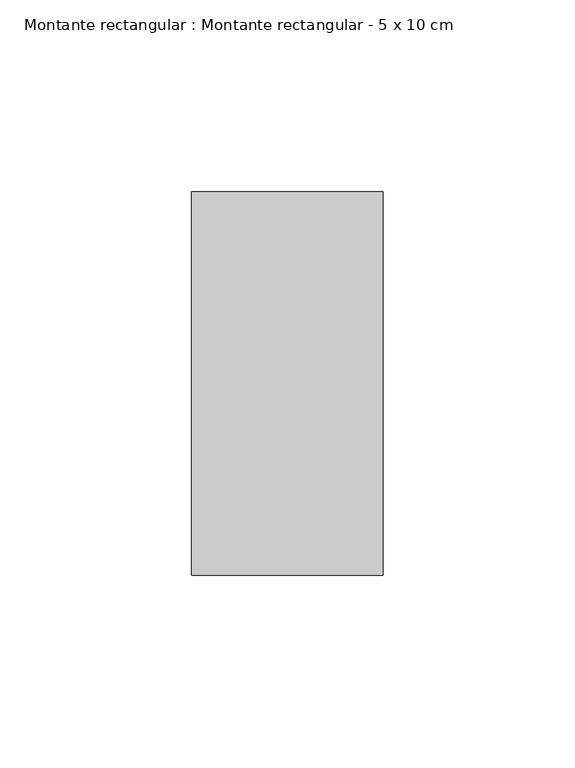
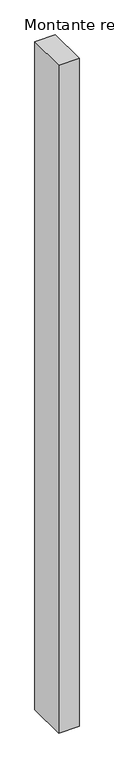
"""IFC4 building model written with IfcOpenShell, lengths in millimetres: member geometry, Montante rectangular : Montante rectangular - 5 x 10 cm."""

import ifcopenshell
import ifcopenshell.guid

model = None  # the IFC model being written
_history = None  # IfcOwnerHistory: only IFC2X3 demands one
_inside = {}  # id of a spatial element -> (the spatial element, [elements in it])
_under = {}  # id of a project, library or spatial element -> (it, [spatial elements below it])
_declared = {}  # id of a project -> (the project, [libraries it declares])
_typed = {}  # id of a type object -> (the type object, [elements of that type])
_made_of = {}  # id of a material, layer set ... -> (it, [elements and type objects made of it])


def new_model(schema):
    """Start an empty IFC model of exactly this schema.

    Asked for "IFC4X3", IfcOpenShell would pick the latest addendum, in which some entities
    have other attributes; the version numbers below select the first issue.
    IFC2X3 requires an IfcOwnerHistory on every rooted entity: one is made here for all.
    """
    global model, _history
    if schema == "IFC4X3":
        model = ifcopenshell.file(schema_version=(4, 3, 0, 0))
    else:
        model = ifcopenshell.file(schema=schema)
    _inside.clear()
    _under.clear()
    _declared.clear()
    _typed.clear()
    _made_of.clear()
    _history = None
    if model.schema == "IFC2X3":
        org = make("IfcOrganization", Name="unknown")
        user = make(
            "IfcPersonAndOrganization",
            ThePerson=make("IfcPerson", FamilyName="unknown"),
            TheOrganization=org,
        )
        app = make(
            "IfcApplication",
            ApplicationDeveloper=org,
            Version="unknown",
            ApplicationFullName="unknown",
            ApplicationIdentifier="unknown",
        )
        _history = make(
            "IfcOwnerHistory",
            OwningUser=user,
            OwningApplication=app,
            ChangeAction="ADDED",
            CreationDate=0,
        )
    return model


def make(cls, **values):
    """One entity of the class cls with the attributes given. An attribute that is None is left unset."""
    return model.create_entity(
        cls, **{name: value for name, value in values.items() if value is not None}
    )


def rooted(cls, **values):
    """An entity with a GlobalId (a new one), such as an element, a storey or a relation."""
    return make(cls, GlobalId=ifcopenshell.guid.new(), OwnerHistory=_history, **values)


def si_unit(unit_type, name, prefix=None):
    """IfcSIUnit, for example si_unit("LENGTHUNIT", "METRE", prefix="MILLI")."""
    return make("IfcSIUnit", UnitType=unit_type, Prefix=prefix, Name=name)


def assignment(units):
    """IfcUnitAssignment: the units of a project."""
    return None if units is None else make("IfcUnitAssignment", Units=units)


def point(xyz):
    """IfcCartesianPoint."""
    return None if xyz is None else make("IfcCartesianPoint", Coordinates=xyz)


def direction(xyz):
    """IfcDirection."""
    return None if xyz is None else make("IfcDirection", DirectionRatios=xyz)


def frame(location, z_axis=None, x_axis=None):
    """IfcAxis2Placement3D, a coordinate frame: its origin and axes. An axis left out is left unset."""
    return make(
        "IfcAxis2Placement3D",
        Location=point(location),
        Axis=direction(z_axis),
        RefDirection=direction(x_axis),
    )


def origin():
    """The frame at (0, 0, 0) with its axes left unset."""
    return frame((0.0, 0.0, 0.0))


def place(relative_to, where):
    """IfcLocalPlacement: puts the frame where relative to a parent placement (None: the world)."""
    return make(
        "IfcLocalPlacement", PlacementRelTo=relative_to, RelativePlacement=where
    )


def context(
    kind, dimensions, precision=None, world=None, true_north=None, identifier=None
):
    """IfcGeometricRepresentationContext, for example the 3D "Model" context."""
    return make(
        "IfcGeometricRepresentationContext",
        ContextIdentifier=identifier,
        ContextType=kind,
        CoordinateSpaceDimension=dimensions,
        Precision=precision,
        WorldCoordinateSystem=world,
        TrueNorth=true_north,
    )


def project(units=None, contexts=None):
    """IfcProject with its units and contexts."""
    return rooted(
        "IfcProject",
        Name="project",
        RepresentationContexts=contexts,
        UnitsInContext=assignment(units),
    )


def spatial(cls, under=None, at=None, **own):
    """A site, building, storey or space (cls), placed at a placement, below another one or the project."""
    s = rooted(cls, ObjectPlacement=at, **own)
    if under is not None:
        _under.setdefault(under.id(), (under, []))[1].append(s)
    return s


def polyline(points):
    """IfcPolyline through the points."""
    return make("IfcPolyline", Points=[point(p) for p in points])


def outline(outer, holes=None, kind="AREA"):
    """IfcArbitraryClosedProfileDef: a profile drawn as a closed curve; with holes, ...WithVoids."""
    if holes is None:
        return make("IfcArbitraryClosedProfileDef", ProfileType=kind, OuterCurve=outer)
    return make(
        "IfcArbitraryProfileDefWithVoids",
        ProfileType=kind,
        OuterCurve=outer,
        InnerCurves=holes,
    )


def extrude(swept, where, along, depth):
    """IfcExtrudedAreaSolid: the profile swept, set in the frame where, extruded along a direction by depth."""
    return make(
        "IfcExtrudedAreaSolid",
        SweptArea=swept,
        Position=where,
        ExtrudedDirection=direction(along),
        Depth=depth,
    )


def shape(context_of_items, identifier, shape_type, items):
    """IfcShapeRepresentation: the items that make up one representation, for example the "Body"."""
    return make(
        "IfcShapeRepresentation",
        ContextOfItems=context_of_items,
        RepresentationIdentifier=identifier,
        RepresentationType=shape_type,
        Items=items,
    )


def source(mapping_origin, context_of_items, identifier, shape_type, items):
    """IfcRepresentationMap: a shape defined once, which mapped items show again and again."""
    return make(
        "IfcRepresentationMap",
        MappingOrigin=mapping_origin,
        MappedRepresentation=shape(context_of_items, identifier, shape_type, items),
    )


def transform(
    local_origin,
    x_axis=None,
    y_axis=None,
    z_axis=None,
    scale=None,
    scale2=None,
    scale3=None,
    uniform=True,
):
    """IfcCartesianTransformationOperator3D, or its non-uniform kind. x_axis, y_axis, z_axis: its Axis1, 2, 3."""
    if uniform:
        return make(
            "IfcCartesianTransformationOperator3D",
            Axis1=direction(x_axis),
            Axis2=direction(y_axis),
            LocalOrigin=point(local_origin),
            Scale=scale,
            Axis3=direction(z_axis),
        )
    return make(
        "IfcCartesianTransformationOperator3DnonUniform",
        Axis1=direction(x_axis),
        Axis2=direction(y_axis),
        LocalOrigin=point(local_origin),
        Scale=scale,
        Axis3=direction(z_axis),
        Scale2=scale2,
        Scale3=scale3,
    )


def mapped(mapping_source, mapping_target):
    """IfcMappedItem: shows the shape of a source again, moved by a transform."""
    return make(
        "IfcMappedItem", MappingSource=mapping_source, MappingTarget=mapping_target
    )


def made_of(thing, what):
    """Note that an element or type object is made of a material, layer set ...; save() writes the relation."""
    if what is not None:
        _made_of.setdefault(what.id(), (what, []))[1].append(thing)
    return thing


def element(
    cls,
    number,
    at=None,
    inside=None,
    cuts=None,
    type_object=None,
    material=None,
    context=None,
    identifier="Body",
    shape_type=None,
    held_by="IfcProductDefinitionShape",
    body=None,
    shapes=None,
    **own,
):
    """One element of the class cls, such as IfcWall. Its Tag is "e" and its number.

    at: its placement. inside: the storey or other place that contains it. cuts: it is an
    opening in that element (IfcRelVoidsElement). A single representation is given by context,
    identifier, shape_type and body (its items); several are given by shapes. held_by: the class
    of the entity that holds the representations. save() writes the other relations.
    """
    e = rooted(cls, Tag="e%d" % number, ObjectPlacement=at, **own)
    if body is not None:
        shapes = [shape(context, identifier, shape_type, body)]
    if shapes is not None:
        e.Representation = make(held_by, Representations=shapes)
    if inside is not None:
        _inside.setdefault(inside.id(), (inside, []))[1].append(e)
    if cuts is not None:
        rooted(
            "IfcRelVoidsElement", RelatingBuildingElement=cuts, RelatedOpeningElement=e
        )
    if type_object is not None:
        _typed.setdefault(type_object.id(), (type_object, []))[1].append(e)
    return made_of(e, material)


def aggregate(whole, parts):
    """IfcRelAggregates: a whole, such as a stair, and the parts it consists of."""
    return rooted("IfcRelAggregates", RelatingObject=whole, RelatedObjects=parts)


def save(model, path):
    """Write the relations noted so far, then the file.

    IfcRelAggregates (storeys below a building ...), IfcRelContainedInSpatialStructure (elements
    in a storey), IfcRelDefinesByType, IfcRelAssociatesMaterial and IfcRelDeclares: one each for
    every whole, place, type object, material and project.
    """
    for whole, parts in _under.values():
        aggregate(whole, parts)
    for where, things in _inside.values():
        rooted(
            "IfcRelContainedInSpatialStructure",
            RelatedElements=things,
            RelatingStructure=where,
        )
    for kind, things in _typed.values():
        rooted("IfcRelDefinesByType", RelatedObjects=things, RelatingType=kind)
    for what, things in _made_of.values():
        rooted("IfcRelAssociatesMaterial", RelatedObjects=things, RelatingMaterial=what)
    for by, libraries in _declared.values():
        rooted("IfcRelDeclares", RelatingContext=by, RelatedDefinitions=libraries)
    model.write(path)


def montante_rectangular_montante_rectangular_5_x_10_cm_0743d2dc(model_context):
    return source(origin(), model_context, "Body", "SweptSolid", [
        extrude(outline(polyline([(0.0, 50.0), (0.0, -50.0), (-50.0, -50.0), (-50.0, 50.0), (0.0, 50.0)])), frame((0.0, 0.0, -1725.0), z_axis=(0.0, 0.0, 1.0), x_axis=(1.0, 0.0, 0.0)), (0.0, 0.0, 1.0), 1725.0),
    ])


if __name__ == "__main__":
    model = new_model("IFC4")
    model_context = context("Model", 3, world=origin())
    ifc_project = project(units=[si_unit("LENGTHUNIT", "METRE", prefix="MILLI")], contexts=[model_context])
    site = spatial("IfcSite", under=ifc_project)
    building = spatial("IfcBuilding", under=site)
    placement = place(None, origin())
    montante_rectangular_montante_rectangular_5_x_10_cm_shape = montante_rectangular_montante_rectangular_5_x_10_cm_0743d2dc(model_context)
    element("IfcMember", 1, ObjectType="Montante rectangular : Montante rectangular - 5 x 10 cm", at=placement, inside=building, context=model_context, shape_type="MappedRepresentation", body=[
        mapped(montante_rectangular_montante_rectangular_5_x_10_cm_shape, transform((0.0, 0.0, 0.0), x_axis=(1.0, 0.0, 0.0), y_axis=(0.0, 1.0, 0.0), z_axis=(0.0, 0.0, 1.0))),
    ])
    save(model, "model.ifc")
